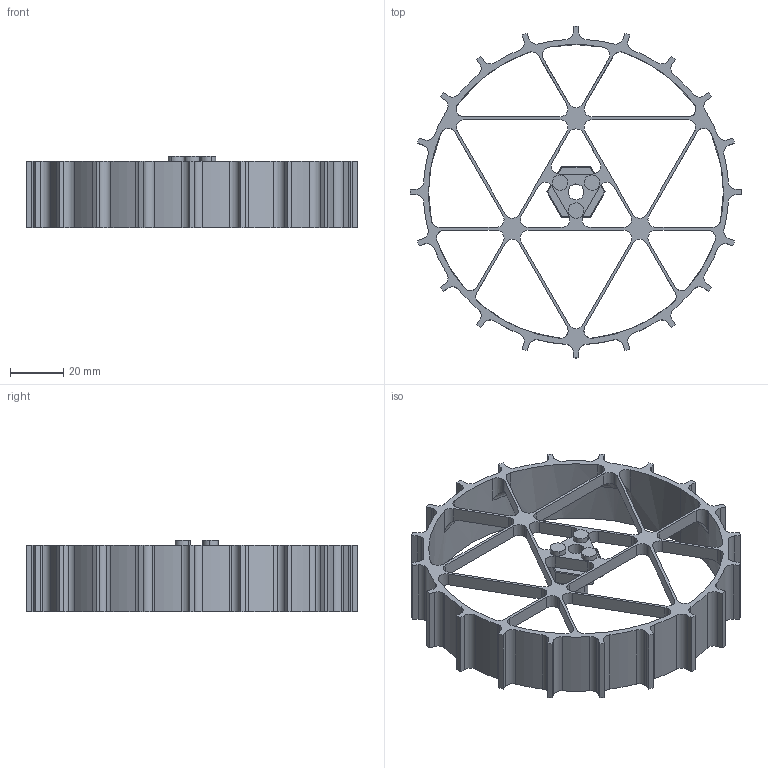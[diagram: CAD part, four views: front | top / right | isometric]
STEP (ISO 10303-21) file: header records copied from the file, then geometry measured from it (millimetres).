
FILE_DESCRIPTION (( 'STEP AP214' ), '1' );
FILE_NAME ('Monoliitne.STEP', '2025-05-19T12:25:27', ( '' ), ( '' ), 'SwSTEP 2.0', 'SolidWorks 2024', '' );
FILE_SCHEMA (( 'AUTOMOTIVE_DESIGN' ));
Length unit declared in the file: millimetre
Products named in the file (4): M3_12mm; Wheel; KK.009.007.Wheel_adapter_hexagon; Monoliitne
Assembly tree (5 placements, depth 2):
  Monoliitne
    Wheel
    KK.009.007.Wheel_adapter_hexagon
    M3_12mm  x3
Bounding box: 125 x 125 x 27 mm (x, y, z)
Volume: 32443.2 mm3; surface area: 33554.9 mm2
Topology: 5 solids, 5 shells, 320 faces, 938 edges, 618 vertices
Faces by surface type: cylinder 188, plane 107, torus 12, cone 10, bspline 3
Entity records: 11256 total; most frequent: CARTESIAN_POINT 2535, DIRECTION 1872, ORIENTED_EDGE 1828, EDGE_CURVE 914, AXIS2_PLACEMENT_3D 699, VERTEX_POINT 602, VECTOR 474, LINE 474
